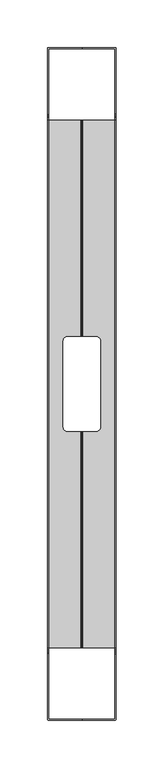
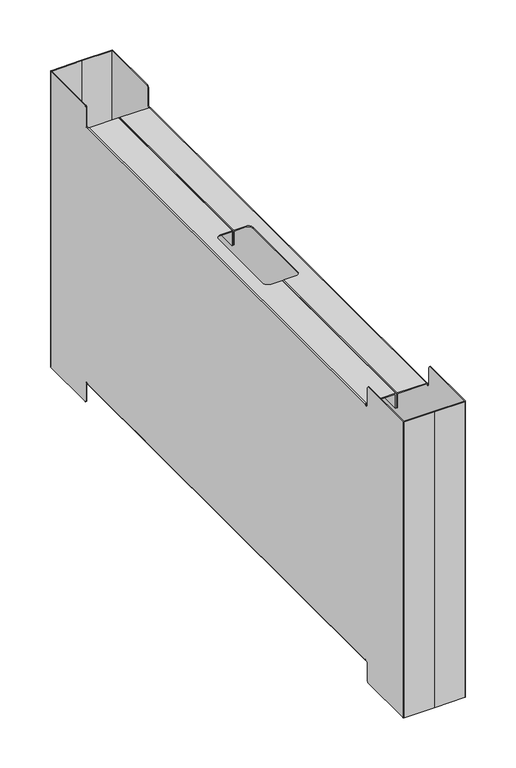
"""IFC4 building model written with IfcOpenShell, lengths in millimetres: furniture geometry, FREZZA_POP AD_Carter_for bench desk : Bracket_ZGBI - Embossed White."""

from ifc_helpers import new_model, si_unit, frame, origin, place, context, project, spatial, polyline, circle_curve, source, transform, mapped, element, save
from ifc_brep_helpers import plane_surface, cylinder_surface, revolved_surface, advanced_brep


def furniture_fbaf5bc5(model_context):
    return source(origin(), model_context, "Body", "AdvancedBrep", [
        advanced_brep(
        [(1451.0, -237.05, 335.5), (1451.0, -237.05, 335.0), (1452.0, -237.05, 335.0), (1452.0, -237.05, 335.55), (1485.95, -237.05, 335.55), (1485.95, -237.05, 318.55), (1486.95, -237.05, 318.55), (1486.95, -237.05, 335.5), (1485.9, -237.05, 336.55), (1452.05, -237.05, 336.55), (1452.0, -237.05, 24.45), (1452.0, -237.05, 25.0), (1451.0, -237.05, 25.0), (1451.0, -237.05, 24.5), (1452.05, -237.05, 23.45), (1485.9, -237.05, 23.45), (1486.95, -237.05, 24.5), (1486.95, -237.05, 41.45), (1485.95, -237.05, 41.45), (1485.95, -237.05, 24.45), (1452.0, 316.05, 335.55), (1452.0, 316.05, 335.0), (1451.0, 316.05, 335.0), (1451.0, 316.05, 335.5), (1452.05, 316.05, 336.55), (1485.9, 316.05, 336.55), (1486.95, 316.05, 335.5), (1486.95, 316.05, 318.55), (1485.95, 316.05, 318.55), (1485.95, 316.05, 335.55), (1451.0, 316.05, 24.5), (1451.0, 316.05, 25.0), (1452.0, 316.05, 25.0), (1452.0, 316.05, 24.45), (1485.95, 316.05, 24.45), (1485.95, 316.05, 41.45), (1486.95, 316.05, 41.45), (1486.95, 316.05, 24.5), (1485.9, 316.05, 23.45), (1452.05, 316.05, 23.45), (1485.9, -10.5, 336.55), (1472.0, -10.5, 336.55), (1467.0, -5.5, 336.55), (1467.0, 84.5, 336.55), (1472.0, 89.5, 336.55), (1485.9, 89.5, 336.55), (1486.95, 89.5, 335.5), (1486.95, -10.5, 335.5), (1486.95, 89.5, 318.55), (1486.95, -10.5, 318.55), (1485.95, 89.5, 318.55), (1485.95, -10.5, 318.55), (1485.95, 89.5, 335.55), (1485.95, -10.5, 335.55), (1472.0, 89.5, 335.55), (1467.0, 84.5, 335.55), (1467.0, -5.5, 335.55), (1472.0, -10.5, 335.55), (1452.0, -239.5, 335.0), (1452.0, -241.5, 337.0), (1452.0, -241.5, 358.0), (1452.0, -243.5, 360.0), (1452.0, -312.05, 360.0), (1452.0, -312.05, 0.0), (1452.0, -243.5, 0.0), (1452.0, -241.5, 2.0), (1452.0, -241.5, 23.0), (1452.0, -239.5, 25.0), (1452.0, 318.5, 25.0), (1452.0, 320.5, 23.0), (1452.0, 320.5, 2.0), (1452.0, 322.5, 0.0), (1452.0, 391.05, 0.0), (1452.0, 391.05, 360.0), (1452.0, 322.5, 360.0), (1452.0, 320.5, 358.0), (1452.0, 320.5, 337.0), (1452.0, 318.5, 335.0), (1451.0, 318.5, 335.0), (1451.0, 320.5, 337.0), (1451.0, 320.5, 358.0), (1451.0, 322.5, 360.0), (1451.0, 391.0, 360.0), (1451.0, 391.0, 0.0), (1451.0, 322.5, 0.0), (1451.0, 320.5, 2.0), (1451.0, 320.5, 23.0), (1451.0, 318.5, 25.0), (1451.0, -239.5, 25.0), (1451.0, -241.5, 23.0), (1451.0, -241.5, 2.0), (1451.0, -243.5, 0.0), (1451.0, -312.05, 0.0), (1451.0, -312.05, 360.0), (1451.0, -243.5, 360.0), (1451.0, -241.5, 358.0), (1451.0, -241.5, 337.0), (1451.0, -239.5, 335.0), (1485.95, -10.5, 24.45), (1472.0, -10.5, 24.45), (1467.0, -5.5, 24.45), (1467.0, 84.5, 24.45), (1472.0, 89.5, 24.45), (1485.95, 89.5, 24.45), (1485.95, 89.5, 41.45), (1485.95, -10.5, 41.45), (1486.95, 89.5, 41.45), (1486.95, -10.5, 41.45), (1486.95, 89.5, 24.5), (1486.95, -10.5, 24.5), (1485.9, 89.5, 23.45), (1485.9, -10.5, 23.45), (1472.0, 89.5, 23.45), (1467.0, 84.5, 23.45), (1467.0, -5.5, 23.45), (1472.0, -10.5, 23.45), (1487.0, 391.05, 360.0), (1487.0, 392.05, 360.0), (1452.05, 392.05, 360.0), (1487.0, -313.05, 360.0), (1487.0, -312.05, 360.0), (1452.05, -313.05, 360.0), (1452.05, 392.05, 0.0), (1487.0, 392.05, 0.0), (1487.0, 391.05, 0.0), (1487.0, -313.05, 0.0), (1452.0, -313.05, 0.0), (1487.0, -312.05, 0.0)],
        [
            (0, 1),
            (1, 2),
            (2, 3),
            (3, 4),
            (4, 5),
            (5, 6),
            (6, 7),
            (7, 8, circle_curve(frame((1485.9, -237.05, 335.5), z_axis=(0.0, -1.0, 0.0), x_axis=(1.0, 0.0, 0.0)), 1.05)),
            (8, 9),
            (9, 0, circle_curve(frame((1452.05, -237.05, 335.5), z_axis=(0.0, -1.0, 0.0), x_axis=(1.0, 0.0, 0.0)), 1.05)),
            (10, 11),
            (11, 12),
            (12, 13),
            (13, 14, circle_curve(frame((1452.05, -237.05, 24.5), z_axis=(0.0, -1.0, 0.0), x_axis=(1.0, 0.0, 0.0)), 1.05)),
            (14, 15),
            (15, 16, circle_curve(frame((1485.9, -237.05, 24.5), z_axis=(0.0, -1.0, 0.0), x_axis=(1.0, 0.0, 0.0)), 1.05)),
            (16, 17),
            (17, 18),
            (18, 19),
            (19, 10),
            (20, 21),
            (21, 22),
            (22, 23),
            (23, 24, circle_curve(frame((1452.05, 316.05, 335.5), z_axis=(0.0, 1.0, 0.0), x_axis=(1.0, 0.0, 0.0)), 1.05)),
            (24, 25),
            (25, 26, circle_curve(frame((1485.9, 316.05, 335.5), z_axis=(0.0, 1.0, 0.0), x_axis=(1.0, 0.0, 0.0)), 1.05)),
            (26, 27),
            (27, 28),
            (28, 29),
            (29, 20),
            (30, 31),
            (31, 32),
            (32, 33),
            (33, 34),
            (34, 35),
            (35, 36),
            (36, 37),
            (37, 38, circle_curve(frame((1485.9, 316.05, 24.5), z_axis=(0.0, 1.0, 0.0), x_axis=(1.0, 0.0, 0.0)), 1.05)),
            (38, 39),
            (39, 30, circle_curve(frame((1452.05, 316.05, 24.5), z_axis=(0.0, 1.0, 0.0), x_axis=(1.0, 0.0, 0.0)), 1.05)),
            (9, 24),
            (23, 0),
            (8, 40),
            (40, 41),
            (41, 42, circle_curve(frame((1472.0, -5.5, 336.55), z_axis=(0.0, 0.0, -1.0), x_axis=(1.0, 0.0, 0.0)), 5.0)),
            (42, 43),
            (43, 44, circle_curve(frame((1472.0, 84.5, 336.55), z_axis=(0.0, 0.0, -1.0), x_axis=(1.0, 0.0, 0.0)), 5.0)),
            (44, 45),
            (45, 25),
            (45, 46, circle_curve(frame((1485.9, 89.5, 335.5), z_axis=(0.0, 1.0, 0.0), x_axis=(1.0, 0.0, 0.0)), 1.05)),
            (46, 26),
            (7, 47),
            (47, 40, circle_curve(frame((1485.9, -10.5, 335.5), z_axis=(0.0, -1.0, 0.0), x_axis=(1.0, 0.0, 0.0)), 1.05)),
            (46, 48),
            (48, 27),
            (6, 49),
            (49, 47),
            (48, 50),
            (50, 28),
            (5, 51),
            (51, 49),
            (50, 52),
            (52, 29),
            (4, 53),
            (53, 51),
            (3, 20),
            (52, 54),
            (54, 55, circle_curve(frame((1472.0, 84.5, 335.55), z_axis=(0.0, 0.0, 1.0), x_axis=(1.0, 0.0, 0.0)), 5.0)),
            (55, 56),
            (56, 57, circle_curve(frame((1472.0, -5.5, 335.55), z_axis=(0.0, 0.0, 1.0), x_axis=(1.0, 0.0, 0.0)), 5.0)),
            (57, 53),
            (2, 58),
            (58, 59, circle_curve(frame((1452.0, -239.5, 337.0), z_axis=(-1.0, 0.0, 0.0), x_axis=(0.0, 1.0, 0.0)), 2.0)),
            (59, 60),
            (60, 61, circle_curve(frame((1452.0, -243.5, 358.0), z_axis=(1.0, 0.0, 0.0), x_axis=(0.0, 1.0, 0.0)), 2.0)),
            (61, 62),
            (62, 63),
            (63, 64),
            (64, 65, circle_curve(frame((1452.0, -243.5, 2.0), z_axis=(1.0, 0.0, 0.0), x_axis=(0.0, 1.0, 0.0)), 2.0)),
            (65, 66),
            (66, 67, circle_curve(frame((1452.0, -239.5, 23.0), z_axis=(-1.0, 0.0, 0.0), x_axis=(0.0, 1.0, 0.0)), 2.0)),
            (67, 11),
            (10, 33),
            (32, 68),
            (68, 69, circle_curve(frame((1452.0, 318.5, 23.0), z_axis=(-1.0, 0.0, 0.0), x_axis=(0.0, 1.0, 0.0)), 2.0)),
            (69, 70),
            (70, 71, circle_curve(frame((1452.0, 322.5, 2.0), z_axis=(1.0, 0.0, 0.0), x_axis=(0.0, 1.0, 0.0)), 2.0)),
            (71, 72),
            (72, 73),
            (73, 74),
            (74, 75, circle_curve(frame((1452.0, 322.5, 358.0), z_axis=(1.0, 0.0, 0.0), x_axis=(0.0, 1.0, 0.0)), 2.0)),
            (75, 76),
            (76, 77, circle_curve(frame((1452.0, 318.5, 337.0), z_axis=(-1.0, 0.0, 0.0), x_axis=(0.0, 1.0, 0.0)), 2.0)),
            (77, 21),
            (22, 78),
            (78, 79, circle_curve(frame((1451.0, 318.5, 337.0), z_axis=(1.0, 0.0, 0.0), x_axis=(0.0, 1.0, 0.0)), 2.0)),
            (79, 80),
            (80, 81, circle_curve(frame((1451.0, 322.5, 358.0), z_axis=(-1.0, 0.0, 0.0), x_axis=(0.0, 1.0, 0.0)), 2.0)),
            (81, 82),
            (82, 83),
            (83, 84),
            (84, 85, circle_curve(frame((1451.0, 322.5, 2.0), z_axis=(-1.0, 0.0, 0.0), x_axis=(0.0, 1.0, 0.0)), 2.0)),
            (85, 86),
            (86, 87, circle_curve(frame((1451.0, 318.5, 23.0), z_axis=(1.0, 0.0, 0.0), x_axis=(0.0, 1.0, 0.0)), 2.0)),
            (87, 31),
            (30, 13),
            (12, 88),
            (88, 89, circle_curve(frame((1451.0, -239.5, 23.0), z_axis=(1.0, 0.0, 0.0), x_axis=(0.0, 1.0, 0.0)), 2.0)),
            (89, 90),
            (90, 91, circle_curve(frame((1451.0, -243.5, 2.0), z_axis=(-1.0, 0.0, 0.0), x_axis=(0.0, 1.0, 0.0)), 2.0)),
            (91, 92),
            (92, 93),
            (93, 94),
            (94, 95, circle_curve(frame((1451.0, -243.5, 358.0), z_axis=(-1.0, 0.0, 0.0), x_axis=(0.0, 1.0, 0.0)), 2.0)),
            (95, 96),
            (96, 97, circle_curve(frame((1451.0, -239.5, 337.0), z_axis=(1.0, 0.0, 0.0), x_axis=(0.0, 1.0, 0.0)), 2.0)),
            (97, 1),
            (19, 98),
            (98, 99),
            (99, 100, circle_curve(frame((1472.0, -5.5, 24.45), z_axis=(0.0, 0.0, -1.0), x_axis=(1.0, 0.0, 0.0)), 5.0)),
            (100, 101),
            (101, 102, circle_curve(frame((1472.0, 84.5, 24.45), z_axis=(0.0, 0.0, -1.0), x_axis=(1.0, 0.0, 0.0)), 5.0)),
            (102, 103),
            (103, 34),
            (103, 104),
            (104, 35),
            (18, 105),
            (105, 98),
            (104, 106),
            (106, 36),
            (17, 107),
            (107, 105),
            (106, 108),
            (108, 37),
            (16, 109),
            (109, 107),
            (108, 110, circle_curve(frame((1485.9, 89.5, 24.5), z_axis=(0.0, 1.0, 0.0), x_axis=(1.0, 0.0, 0.0)), 1.05)),
            (110, 38),
            (15, 111),
            (111, 109, circle_curve(frame((1485.9, -10.5, 24.5), z_axis=(0.0, -1.0, 0.0), x_axis=(1.0, 0.0, 0.0)), 1.05)),
            (14, 39),
            (110, 112),
            (112, 113, circle_curve(frame((1472.0, 84.5, 23.45), z_axis=(0.0, 0.0, 1.0), x_axis=(1.0, 0.0, 0.0)), 5.0)),
            (113, 114),
            (114, 115, circle_curve(frame((1472.0, -5.5, 23.45), z_axis=(0.0, 0.0, 1.0), x_axis=(1.0, 0.0, 0.0)), 5.0)),
            (115, 111),
            (54, 44),
            (43, 55),
            (112, 102),
            (101, 113),
            (57, 41),
            (115, 99),
            (56, 42),
            (114, 100),
            (81, 74),
            (73, 116),
            (116, 117),
            (117, 118),
            (118, 82, circle_curve(frame((1452.05, 391.0, 360.0), z_axis=(0.0, 0.0, 1.0), x_axis=(1.0, 0.0, 0.0)), 1.05)),
            (119, 120),
            (120, 62),
            (61, 94),
            (93, 121, circle_curve(frame((1452.05, -312.0, 360.0), z_axis=(0.0, 0.0, 1.0), x_axis=(1.0, 0.0, 0.0)), 1.05)),
            (121, 119),
            (71, 84),
            (83, 122, circle_curve(frame((1452.05, 391.0, 0.0), z_axis=(0.0, 0.0, -1.0), x_axis=(1.0, 0.0, 0.0)), 1.05)),
            (122, 123),
            (123, 124),
            (124, 72),
            (125, 126),
            (126, 92, circle_curve(frame((1452.05, -312.0, 0.0), z_axis=(0.0, 0.0, -1.0), x_axis=(1.0, 0.0, 0.0)), 1.05)),
            (91, 64),
            (63, 127),
            (127, 125),
            (121, 126),
            (125, 119),
            (118, 122),
            (117, 123),
            (116, 124),
            (120, 127),
            (60, 95),
            (59, 96),
            (58, 97),
            (77, 78),
            (76, 79),
            (75, 80),
            (70, 85),
            (69, 86),
            (68, 87),
            (67, 88),
            (66, 89),
            (65, 90),
        ],
        [
            plane_surface(frame((1487.0, -237.05, 0.0), z_axis=(0.0, -1.0, 0.0), x_axis=(0.0, 0.0, 1.0))),
            plane_surface(frame((1487.0, 316.05, 0.0), z_axis=(0.0, 1.0, 0.0), x_axis=(0.0, 0.0, 1.0))),
            cylinder_surface(frame((1452.05, -237.05, 335.5), z_axis=(0.0, -1.0, 0.0), x_axis=(1.0, 0.0, 0.0)), 1.05),
            plane_surface(frame((1452.05, -237.05, 336.55), z_axis=(0.0, 0.0, 1.0), x_axis=(0.0, 1.0, 0.0))),
            cylinder_surface(frame((1485.9, -237.05, 335.5), z_axis=(0.0, -1.0, 0.0), x_axis=(1.0, 0.0, 0.0)), 1.05),
            plane_surface(frame((1486.95, -237.05, 335.5), z_axis=(1.0, 0.0, 0.0), x_axis=(0.0, 1.0, 0.0))),
            plane_surface(frame((1486.95, -237.05, 318.55), z_axis=(0.0, 0.0, -1.0), x_axis=(0.0, 1.0, 0.0))),
            plane_surface(frame((1485.95, -237.05, 318.55), z_axis=(-1.0, 0.0, 0.0), x_axis=(0.0, 1.0, 0.0))),
            plane_surface(frame((1485.95, -237.05, 335.55), z_axis=(0.0, 0.0, -1.0), x_axis=(0.0, 1.0, 0.0))),
            plane_surface(frame((1452.0, -237.05, 335.55), z_axis=(1.0, 0.0, 0.0), x_axis=(0.0, 1.0, 0.0))),
            plane_surface(frame((1451.0, -237.05, 334.55), z_axis=(-1.0, 0.0, 0.0), x_axis=(0.0, 1.0, 0.0))),
            plane_surface(frame((1452.0, -237.05, 24.45), z_axis=(0.0, 0.0, 1.0), x_axis=(0.0, 1.0, 0.0))),
            plane_surface(frame((1485.95, -237.05, 24.45), z_axis=(-1.0, 0.0, 0.0), x_axis=(0.0, 1.0, 0.0))),
            plane_surface(frame((1485.95, -237.05, 41.45), z_axis=(0.0, 0.0, 1.0), x_axis=(0.0, 1.0, 0.0))),
            plane_surface(frame((1486.95, -237.05, 41.45), z_axis=(1.0, 0.0, 0.0), x_axis=(0.0, 1.0, 0.0))),
            cylinder_surface(frame((1485.9, -237.05, 24.5), z_axis=(0.0, -1.0, 0.0), x_axis=(1.0, 0.0, 0.0)), 1.05),
            plane_surface(frame((1485.9, -237.05, 23.45), z_axis=(0.0, 0.0, -1.0), x_axis=(0.0, 1.0, 0.0))),
            cylinder_surface(frame((1452.05, -237.05, 24.5), z_axis=(0.0, -1.0, 0.0), x_axis=(1.0, 0.0, 0.0)), 1.05),
            revolved_surface(polyline([(1477.0, 84.5, 336.55), (1477.0, 84.5, 335.55)]), (1472.0, 84.5, 0.0), (0.0, 0.0, 1.0)),
            revolved_surface(polyline([(1477.0, 84.5, 24.45), (1477.0, 84.5, 23.45)]), (1472.0, 84.5, 0.0), (0.0, 0.0, 1.0)),
            plane_surface(frame((1472.0, 89.5, 360.0), z_axis=(0.0, -1.0, 0.0), x_axis=(0.0, 0.0, -1.0))),
            plane_surface(frame((1502.0, -10.5, 360.0), z_axis=(0.0, 1.0, 0.0), x_axis=(0.0, 0.0, -1.0))),
            revolved_surface(polyline([(1477.0, -5.5, 336.55), (1477.0, -5.5, 335.55)]), (1472.0, -5.5, 0.0), (0.0, 0.0, 1.0)),
            revolved_surface(polyline([(1477.0, -5.5, 24.45), (1477.0, -5.5, 23.45)]), (1472.0, -5.5, 0.0), (0.0, 0.0, 1.0)),
            plane_surface(frame((1467.0, -5.5, 360.0), z_axis=(1.0, 0.0, 0.0), x_axis=(0.0, 0.0, -1.0))),
            plane_surface(frame((1452.0, -313.05, 360.0), z_axis=(0.0, 0.0, 1.0), x_axis=(-1.0, 0.0, 0.0))),
            plane_surface(frame((1452.0, -313.05, 0.0), z_axis=(0.0, 0.0, -1.0), x_axis=(1.0, 0.0, 0.0))),
            plane_surface(frame((1487.0, -313.05, 360.0), z_axis=(0.0, -1.0, 0.0), x_axis=(0.0, 0.0, -1.0))),
            cylinder_surface(frame((1452.05, -312.0, 0.0), z_axis=(0.0, 0.0, 1.0), x_axis=(1.0, 0.0, 0.0)), 1.05),
            cylinder_surface(frame((1452.05, 391.0, 0.0), z_axis=(0.0, 0.0, 1.0), x_axis=(1.0, 0.0, 0.0)), 1.05),
            plane_surface(frame((1452.05, 392.05, 360.0), z_axis=(0.0, 1.0, 0.0), x_axis=(0.0, 0.0, -1.0))),
            plane_surface(frame((1487.0, 392.05, 360.0), z_axis=(1.0, 0.0, 0.0), x_axis=(0.0, 0.0, -1.0))),
            plane_surface(frame((1487.0, 391.05, 360.0), z_axis=(0.0, -1.0, 0.0), x_axis=(0.0, 0.0, -1.0))),
            plane_surface(frame((1452.0, -312.05, 360.0), z_axis=(0.0, 1.0, 0.0), x_axis=(0.0, 0.0, -1.0))),
            plane_surface(frame((1487.0, -312.05, 360.0), z_axis=(1.0, 0.0, 0.0), x_axis=(0.0, 0.0, -1.0))),
            cylinder_surface(frame((1527.0, -243.5, 358.0), z_axis=(1.0, 0.0, 0.0), x_axis=(0.0, 1.0, 0.0)), 2.0),
            plane_surface(frame((1447.0, -241.5, 358.0), z_axis=(0.0, 1.0, 0.0), x_axis=(1.0, 0.0, 0.0))),
            revolved_surface(polyline([(1451.0, -237.5, 337.0), (1452.0, -237.5, 337.0)]), (1527.0, -239.5, 337.0), (-1.0, 0.0, 0.0)),
            plane_surface(frame((1447.0, -239.5, 335.0), z_axis=(0.0, 0.0, 1.0), x_axis=(1.0, 0.0, 0.0))),
            revolved_surface(polyline([(1451.0, 320.5, 337.0), (1452.0, 320.5, 337.0)]), (1527.0, 318.5, 337.0), (-1.0, 0.0, 0.0)),
            plane_surface(frame((1447.0, 320.5, 337.0), z_axis=(0.0, -1.0, 0.0), x_axis=(1.0, 0.0, 0.0))),
            cylinder_surface(frame((1527.0, 322.5, 358.0), z_axis=(1.0, 0.0, 0.0), x_axis=(0.0, 1.0, 0.0)), 2.0),
            cylinder_surface(frame((1447.0, 322.5, 2.0), z_axis=(1.0, 0.0, 0.0), x_axis=(0.0, 1.0, 0.0)), 2.0),
            plane_surface(frame((1447.0, 320.5, 2.0), z_axis=(0.0, -1.0, 0.0), x_axis=(1.0, 0.0, 0.0))),
            revolved_surface(polyline([(1451.0, 320.5, 23.0), (1452.0, 320.5, 23.0)]), (1447.0, 318.5, 23.0), (-1.0, 0.0, 0.0)),
            plane_surface(frame((1447.0, 318.5, 25.0), z_axis=(0.0, 0.0, -1.0), x_axis=(1.0, 0.0, 0.0))),
            revolved_surface(polyline([(1451.0, -237.5, 23.0), (1452.0, -237.5, 23.0)]), (1447.0, -239.5, 23.0), (-1.0, 0.0, 0.0)),
            plane_surface(frame((1447.0, -241.5, 23.0), z_axis=(0.0, 1.0, 0.0), x_axis=(1.0, 0.0, 0.0))),
            cylinder_surface(frame((1447.0, -243.5, 2.0), z_axis=(1.0, 0.0, 0.0), x_axis=(0.0, 1.0, 0.0)), 2.0),
        ],
        [
            (0, [[1, 2, 3, 4, 5, 6, 7, 8, 9, 10]]),
            (0, [[11, 12, 13, 14, 15, 16, 17, 18, 19, 20]]),
            (1, [[21, 22, 23, 24, 25, 26, 27, 28, 29, 30]]),
            (1, [[31, 32, 33, 34, 35, 36, 37, 38, 39, 40]]),
            (2, [[41, -24, 42, -10]]),
            (3, [[43, 44, 45, 46, 47, 48, 49, -25, -41, -9]]),
            (4, [[-49, 50, 51, -26]]),
            (4, [[52, 53, -43, -8]]),
            (5, [[-51, 54, 55, -27]]),
            (5, [[56, 57, -52, -7]]),
            (6, [[-55, 58, 59, -28]]),
            (6, [[60, 61, -56, -6]]),
            (7, [[-59, 62, 63, -29]]),
            (7, [[64, 65, -60, -5]]),
            (8, [[66, -30, -63, 67, 68, 69, 70, 71, -64, -4]]),
            (9, [[-3, 72, 73, 74, 75, 76, 77, 78, 79, 80, 81, 82, -11, 83, -33, 84, 85, 86, 87, 88, 89, 90, 91, 92, 93, 94, -21, -66]]),
            (10, [[-23, 95, 96, 97, 98, 99, 100, 101, 102, 103, 104, 105, -31, 106, -13, 107, 108, 109, 110, 111, 112, 113, 114, 115, 116, 117, -1, -42]]),
            (11, [[118, 119, 120, 121, 122, 123, 124, -34, -83, -20]]),
            (12, [[-124, 125, 126, -35]]),
            (12, [[127, 128, -118, -19]]),
            (13, [[-126, 129, 130, -36]]),
            (13, [[131, 132, -127, -18]]),
            (14, [[-130, 133, 134, -37]]),
            (14, [[135, 136, -131, -17]]),
            (15, [[-134, 137, 138, -38]]),
            (15, [[139, 140, -135, -16]]),
            (16, [[141, -39, -138, 142, 143, 144, 145, 146, -139, -15]]),
            (17, [[-106, -40, -141, -14]]),
            (18, [[-68, 147, -47, 148]]),
            (19, [[-143, 149, -122, 150]]),
            (20, [[-67, -62, -58, -54, -50, -48, -147]]),
            (20, [[-142, -137, -133, -129, -125, -123, -149]]),
            (21, [[-44, -53, -57, -61, -65, -71, 151]]),
            (21, [[-119, -128, -132, -136, -140, -146, 152]]),
            (22, [[-70, 153, -45, -151]]),
            (23, [[-145, 154, -120, -152]]),
            (24, [[-46, -153, -69, -148]]),
            (24, [[-121, -154, -144, -150]]),
            (25, [[-99, 155, -90, 156, 157, 158, 159]]),
            (25, [[160, 161, -76, 162, -113, 163, 164]]),
            (26, [[-88, 165, -101, 166, 167, 168, 169]]),
            (26, [[170, 171, -111, 172, -78, 173, 174]]),
            (27, [[175, -170, 176, -164]]),
            (28, [[-112, -171, -175, -163]]),
            (29, [[177, -166, -100, -159]]),
            (30, [[178, -167, -177, -158]]),
            (31, [[179, -168, -178, -157]]),
            (32, [[-89, -169, -179, -156]]),
            (33, [[180, -173, -77, -161]]),
            (34, [[-176, -174, -180, -160]]),
            (35, [[-114, -162, -75, 181]]),
            (36, [[-74, 182, -115, -181]]),
            (37, [[-73, 183, -116, -182]]),
            (38, [[-72, -2, -117, -183]]),
            (38, [[-95, -22, -94, 184]]),
            (39, [[-93, 185, -96, -184]]),
            (40, [[-92, 186, -97, -185]]),
            (41, [[-91, -155, -98, -186]]),
            (42, [[-102, -165, -87, 187]]),
            (43, [[-86, 188, -103, -187]]),
            (44, [[-85, 189, -104, -188]]),
            (45, [[-84, -32, -105, -189]]),
            (45, [[-107, -12, -82, 190]]),
            (46, [[-81, 191, -108, -190]]),
            (47, [[-80, 192, -109, -191]]),
            (48, [[-79, -172, -110, -192]]),
        ],
    ),
        advanced_brep(
        [(1502.0, 89.5, 336.55), (1488.1, 89.5, 336.55), (1487.05, 89.5, 335.5), (1487.05, 89.5, 318.55), (1488.05, 89.5, 318.55), (1488.05, 89.5, 335.55), (1502.0, 89.5, 335.55), (1502.0, 89.5, 24.45), (1488.05, 89.5, 24.45), (1488.05, 89.5, 41.45), (1487.05, 89.5, 41.45), (1487.05, 89.5, 24.5), (1488.1, 89.5, 23.45), (1502.0, 89.5, 23.45), (1507.0, 84.5, 335.55), (1507.0, 84.5, 336.55), (1507.0, 84.5, 23.45), (1507.0, 84.5, 24.45), (1507.0, -5.5, 335.55), (1507.0, -5.5, 336.55), (1507.0, -5.5, 23.45), (1507.0, -5.5, 24.45), (1502.0, -10.5, 335.55), (1502.0, -10.5, 336.55), (1502.0, -10.5, 23.45), (1502.0, -10.5, 24.45), (1488.05, -10.5, 335.55), (1488.05, -10.5, 318.55), (1487.05, -10.5, 318.55), (1487.05, -10.5, 335.5), (1488.1, -10.5, 336.55), (1488.1, -10.5, 23.45), (1487.05, -10.5, 24.5), (1487.05, -10.5, 41.45), (1488.05, -10.5, 41.45), (1488.05, -10.5, 24.45), (1522.0, -237.05, 335.55), (1522.0, -237.05, 335.0), (1523.0, -237.05, 335.0), (1523.0, -237.05, 335.5), (1521.95, -237.05, 336.55), (1488.1, -237.05, 336.55), (1487.05, -237.05, 335.5), (1487.05, -237.05, 318.55), (1488.05, -237.05, 318.55), (1488.05, -237.05, 335.55), (1523.0, -237.05, 24.5), (1523.0, -237.05, 25.0), (1522.0, -237.05, 25.0), (1522.0, -237.05, 24.45), (1488.05, -237.05, 24.45), (1488.05, -237.05, 41.45), (1487.05, -237.05, 41.45), (1487.05, -237.05, 24.5), (1488.1, -237.05, 23.45), (1521.95, -237.05, 23.45), (1523.0, 316.05, 335.5), (1523.0, 316.05, 335.0), (1522.0, 316.05, 335.0), (1522.0, 316.05, 335.55), (1488.05, 316.05, 335.55), (1488.05, 316.05, 318.55), (1487.05, 316.05, 318.55), (1487.05, 316.05, 335.5), (1488.1, 316.05, 336.55), (1521.95, 316.05, 336.55), (1522.0, 316.05, 24.45), (1522.0, 316.05, 25.0), (1523.0, 316.05, 25.0), (1523.0, 316.05, 24.5), (1521.95, 316.05, 23.45), (1488.1, 316.05, 23.45), (1487.05, 316.05, 24.5), (1487.05, 316.05, 41.45), (1488.05, 316.05, 41.45), (1488.05, 316.05, 24.45), (1522.0, 318.5, 335.0), (1522.0, 320.5, 337.0), (1522.0, 320.5, 358.0), (1522.0, 322.5, 360.0), (1522.0, 391.05, 360.0), (1522.0, 391.05, 0.0), (1522.0, 322.5, 0.0), (1522.0, 320.5, 2.0), (1522.0, 320.5, 23.0), (1522.0, 318.5, 25.0), (1522.0, -239.5, 25.0), (1522.0, -241.5, 23.0), (1522.0, -241.5, 2.0), (1522.0, -243.5, 0.0), (1522.0, -312.05, 0.0), (1522.0, -312.05, 360.0), (1522.0, -243.5, 360.0), (1522.0, -241.5, 358.0), (1522.0, -241.5, 337.0), (1522.0, -239.5, 335.0), (1523.0, -239.5, 335.0), (1523.0, -241.5, 337.0), (1523.0, -241.5, 358.0), (1523.0, -243.5, 360.0), (1523.0, -312.05, 360.0), (1523.0, -312.0, 0.0), (1523.0, -243.5, 0.0), (1523.0, -241.5, 2.0), (1523.0, -241.5, 23.0), (1523.0, -239.5, 25.0), (1523.0, 318.5, 25.0), (1523.0, 320.5, 23.0), (1523.0, 320.5, 2.0), (1523.0, 322.5, 0.0), (1523.0, 391.0, 0.0), (1523.0, 391.0, 360.0), (1523.0, 322.5, 360.0), (1523.0, 320.5, 358.0), (1523.0, 320.5, 337.0), (1523.0, 318.5, 335.0), (1521.95, 392.05, 360.0), (1487.0, 392.05, 360.0), (1487.0, 391.05, 360.0), (1487.0, -313.05, 360.0), (1522.0, -313.05, 360.0), (1487.0, -312.05, 360.0), (1487.0, 391.05, 0.0), (1487.0, 392.05, 0.0), (1521.95, 392.05, 0.0), (1487.0, -313.05, 0.0), (1487.0, -312.05, 0.0), (1521.95, -313.05, 0.0)],
        [
            (0, 1),
            (1, 2, circle_curve(frame((1488.1, 89.5, 335.5), z_axis=(0.0, -1.0, 0.0), x_axis=(1.0, 0.0, 0.0)), 1.05)),
            (2, 3),
            (3, 4),
            (4, 5),
            (5, 6),
            (6, 0),
            (7, 8),
            (8, 9),
            (9, 10),
            (10, 11),
            (11, 12, circle_curve(frame((1488.1, 89.5, 24.5), z_axis=(0.0, -1.0, 0.0), x_axis=(1.0, 0.0, 0.0)), 1.05)),
            (12, 13),
            (13, 7),
            (6, 14, circle_curve(frame((1502.0, 84.5, 335.55), z_axis=(0.0, 0.0, -1.0), x_axis=(1.0, 0.0, 0.0)), 5.0)),
            (14, 15),
            (15, 0, circle_curve(frame((1502.0, 84.5, 336.55), z_axis=(0.0, 0.0, 1.0), x_axis=(1.0, 0.0, 0.0)), 5.0)),
            (13, 16, circle_curve(frame((1502.0, 84.5, 23.45), z_axis=(0.0, 0.0, -1.0), x_axis=(1.0, 0.0, 0.0)), 5.0)),
            (16, 17),
            (17, 7, circle_curve(frame((1502.0, 84.5, 24.45), z_axis=(0.0, 0.0, 1.0), x_axis=(1.0, 0.0, 0.0)), 5.0)),
            (14, 18),
            (18, 19),
            (19, 15),
            (16, 20),
            (20, 21),
            (21, 17),
            (18, 22, circle_curve(frame((1502.0, -5.5, 335.55), z_axis=(0.0, 0.0, -1.0), x_axis=(1.0, 0.0, 0.0)), 5.0)),
            (22, 23),
            (23, 19, circle_curve(frame((1502.0, -5.5, 336.55), z_axis=(0.0, 0.0, 1.0), x_axis=(1.0, 0.0, 0.0)), 5.0)),
            (20, 24, circle_curve(frame((1502.0, -5.5, 23.45), z_axis=(0.0, 0.0, -1.0), x_axis=(1.0, 0.0, 0.0)), 5.0)),
            (24, 25),
            (25, 21, circle_curve(frame((1502.0, -5.5, 24.45), z_axis=(0.0, 0.0, 1.0), x_axis=(1.0, 0.0, 0.0)), 5.0)),
            (22, 26),
            (26, 27),
            (27, 28),
            (28, 29),
            (29, 30, circle_curve(frame((1488.1, -10.5, 335.5), z_axis=(0.0, 1.0, 0.0), x_axis=(1.0, 0.0, 0.0)), 1.05)),
            (30, 23),
            (24, 31),
            (31, 32, circle_curve(frame((1488.1, -10.5, 24.5), z_axis=(0.0, 1.0, 0.0), x_axis=(1.0, 0.0, 0.0)), 1.05)),
            (32, 33),
            (33, 34),
            (34, 35),
            (35, 25),
            (36, 37),
            (37, 38),
            (38, 39),
            (39, 40, circle_curve(frame((1521.95, -237.05, 335.5), z_axis=(0.0, -1.0, 0.0), x_axis=(1.0, 0.0, 0.0)), 1.05)),
            (40, 41),
            (41, 42, circle_curve(frame((1488.1, -237.05, 335.5), z_axis=(0.0, -1.0, 0.0), x_axis=(1.0, 0.0, 0.0)), 1.05)),
            (42, 43),
            (43, 44),
            (44, 45),
            (45, 36),
            (46, 47),
            (47, 48),
            (48, 49),
            (49, 50),
            (50, 51),
            (51, 52),
            (52, 53),
            (53, 54, circle_curve(frame((1488.1, -237.05, 24.5), z_axis=(0.0, -1.0, 0.0), x_axis=(1.0, 0.0, 0.0)), 1.05)),
            (54, 55),
            (55, 46, circle_curve(frame((1521.95, -237.05, 24.5), z_axis=(0.0, -1.0, 0.0), x_axis=(1.0, 0.0, 0.0)), 1.05)),
            (56, 57),
            (57, 58),
            (58, 59),
            (59, 60),
            (60, 61),
            (61, 62),
            (62, 63),
            (63, 64, circle_curve(frame((1488.1, 316.05, 335.5), z_axis=(0.0, 1.0, 0.0), x_axis=(1.0, 0.0, 0.0)), 1.05)),
            (64, 65),
            (65, 56, circle_curve(frame((1521.95, 316.05, 335.5), z_axis=(0.0, 1.0, 0.0), x_axis=(1.0, 0.0, 0.0)), 1.05)),
            (66, 67),
            (67, 68),
            (68, 69),
            (69, 70, circle_curve(frame((1521.95, 316.05, 24.5), z_axis=(0.0, 1.0, 0.0), x_axis=(1.0, 0.0, 0.0)), 1.05)),
            (70, 71),
            (71, 72, circle_curve(frame((1488.1, 316.05, 24.5), z_axis=(0.0, 1.0, 0.0), x_axis=(1.0, 0.0, 0.0)), 1.05)),
            (72, 73),
            (73, 74),
            (74, 75),
            (75, 66),
            (39, 56),
            (65, 40),
            (64, 1),
            (30, 41),
            (29, 42),
            (63, 2),
            (28, 43),
            (62, 3),
            (27, 44),
            (61, 4),
            (26, 45),
            (60, 5),
            (59, 36),
            (58, 76),
            (76, 77, circle_curve(frame((1522.0, 318.5, 337.0), z_axis=(1.0, 0.0, 0.0), x_axis=(0.0, 1.0, 0.0)), 2.0)),
            (77, 78),
            (78, 79, circle_curve(frame((1522.0, 322.5, 358.0), z_axis=(-1.0, 0.0, 0.0), x_axis=(0.0, 1.0, 0.0)), 2.0)),
            (79, 80),
            (80, 81),
            (81, 82),
            (82, 83, circle_curve(frame((1522.0, 322.5, 2.0), z_axis=(-1.0, 0.0, 0.0), x_axis=(0.0, 1.0, 0.0)), 2.0)),
            (83, 84),
            (84, 85, circle_curve(frame((1522.0, 318.5, 23.0), z_axis=(1.0, 0.0, 0.0), x_axis=(0.0, 1.0, 0.0)), 2.0)),
            (85, 67),
            (66, 49),
            (48, 86),
            (86, 87, circle_curve(frame((1522.0, -239.5, 23.0), z_axis=(1.0, 0.0, 0.0), x_axis=(0.0, 1.0, 0.0)), 2.0)),
            (87, 88),
            (88, 89, circle_curve(frame((1522.0, -243.5, 2.0), z_axis=(-1.0, 0.0, 0.0), x_axis=(0.0, 1.0, 0.0)), 2.0)),
            (89, 90),
            (90, 91),
            (91, 92),
            (92, 93, circle_curve(frame((1522.0, -243.5, 358.0), z_axis=(-1.0, 0.0, 0.0), x_axis=(0.0, 1.0, 0.0)), 2.0)),
            (93, 94),
            (94, 95, circle_curve(frame((1522.0, -239.5, 337.0), z_axis=(1.0, 0.0, 0.0), x_axis=(0.0, 1.0, 0.0)), 2.0)),
            (95, 37),
            (38, 96),
            (96, 97, circle_curve(frame((1523.0, -239.5, 337.0), z_axis=(-1.0, 0.0, 0.0), x_axis=(0.0, 1.0, 0.0)), 2.0)),
            (97, 98),
            (98, 99, circle_curve(frame((1523.0, -243.5, 358.0), z_axis=(1.0, 0.0, 0.0), x_axis=(0.0, 1.0, 0.0)), 2.0)),
            (99, 100),
            (100, 101),
            (101, 102),
            (102, 103, circle_curve(frame((1523.0, -243.5, 2.0), z_axis=(1.0, 0.0, 0.0), x_axis=(0.0, 1.0, 0.0)), 2.0)),
            (103, 104),
            (104, 105, circle_curve(frame((1523.0, -239.5, 23.0), z_axis=(-1.0, 0.0, 0.0), x_axis=(0.0, 1.0, 0.0)), 2.0)),
            (105, 47),
            (46, 69),
            (68, 106),
            (106, 107, circle_curve(frame((1523.0, 318.5, 23.0), z_axis=(-1.0, 0.0, 0.0), x_axis=(0.0, 1.0, 0.0)), 2.0)),
            (107, 108),
            (108, 109, circle_curve(frame((1523.0, 322.5, 2.0), z_axis=(1.0, 0.0, 0.0), x_axis=(0.0, 1.0, 0.0)), 2.0)),
            (109, 110),
            (110, 111),
            (111, 112),
            (112, 113, circle_curve(frame((1523.0, 322.5, 358.0), z_axis=(1.0, 0.0, 0.0), x_axis=(0.0, 1.0, 0.0)), 2.0)),
            (113, 114),
            (114, 115, circle_curve(frame((1523.0, 318.5, 337.0), z_axis=(-1.0, 0.0, 0.0), x_axis=(0.0, 1.0, 0.0)), 2.0)),
            (115, 57),
            (75, 8),
            (35, 50),
            (34, 51),
            (74, 9),
            (33, 52),
            (73, 10),
            (32, 53),
            (72, 11),
            (31, 54),
            (71, 12),
            (70, 55),
            (92, 99),
            (98, 93),
            (97, 94),
            (96, 95),
            (115, 76),
            (114, 77),
            (113, 78),
            (112, 79),
            (82, 109),
            (108, 83),
            (107, 84),
            (106, 85),
            (105, 86),
            (104, 87),
            (103, 88),
            (102, 89),
            (111, 116, circle_curve(frame((1521.95, 391.0, 360.0), z_axis=(0.0, 0.0, 1.0), x_axis=(-1.0, 0.0, 0.0)), 1.05)),
            (116, 117),
            (117, 118),
            (118, 80),
            (119, 120),
            (120, 100, circle_curve(frame((1521.95, -312.0, 360.0), z_axis=(0.0, 0.0, 1.0), x_axis=(-1.0, 0.0, 0.0)), 1.05)),
            (91, 121),
            (121, 119),
            (81, 122),
            (122, 123),
            (123, 124),
            (124, 110, circle_curve(frame((1521.95, 391.0, 0.0), z_axis=(0.0, 0.0, -1.0), x_axis=(-1.0, 0.0, 0.0)), 1.05)),
            (125, 126),
            (126, 90),
            (101, 127, circle_curve(frame((1521.95, -312.0, 0.0), z_axis=(0.0, 0.0, -1.0), x_axis=(-1.0, 0.0, 0.0)), 1.05)),
            (127, 125),
            (119, 125),
            (127, 120),
            (124, 116),
            (123, 117),
            (122, 118),
            (126, 121),
        ],
        [
            plane_surface(frame((1472.0, 89.5, 360.0), z_axis=(0.0, -1.0, 0.0), x_axis=(0.0, 0.0, -1.0))),
            revolved_surface(polyline([(1507.0, 84.5, 336.55), (1507.0, 84.5, 335.55)]), (1502.0, 84.5, 0.0), (0.0, 0.0, 1.0)),
            revolved_surface(polyline([(1507.0, 84.5, 24.45), (1507.0, 84.5, 23.45)]), (1502.0, 84.5, 0.0), (0.0, 0.0, 1.0)),
            plane_surface(frame((1507.0, 84.5, 360.0), z_axis=(-1.0, 0.0, 0.0), x_axis=(0.0, 0.0, -1.0))),
            revolved_surface(polyline([(1507.0, -5.5, 336.55), (1507.0, -5.5, 335.55)]), (1502.0, -5.5, 0.0), (0.0, 0.0, 1.0)),
            revolved_surface(polyline([(1507.0, -5.5, 24.45), (1507.0, -5.5, 23.45)]), (1502.0, -5.5, 0.0), (0.0, 0.0, 1.0)),
            plane_surface(frame((1502.0, -10.5, 360.0), z_axis=(0.0, 1.0, 0.0), x_axis=(0.0, 0.0, -1.0))),
            plane_surface(frame((1487.0, -237.05, 0.0), z_axis=(0.0, -1.0, 0.0), x_axis=(0.0, 0.0, 1.0))),
            plane_surface(frame((1487.0, 316.05, 0.0), z_axis=(0.0, 1.0, 0.0), x_axis=(0.0, 0.0, 1.0))),
            cylinder_surface(frame((1521.95, -237.05, 335.5), z_axis=(0.0, -1.0, 0.0), x_axis=(1.0, 0.0, 0.0)), 1.05),
            plane_surface(frame((1488.1, -237.05, 336.55), z_axis=(0.0, 0.0, 1.0), x_axis=(0.0, 1.0, 0.0))),
            cylinder_surface(frame((1488.1, -237.05, 335.5), z_axis=(0.0, -1.0, 0.0), x_axis=(1.0, 0.0, 0.0)), 1.05),
            plane_surface(frame((1487.05, -237.05, 318.55), z_axis=(-1.0, 0.0, 0.0), x_axis=(0.0, 1.0, 0.0))),
            plane_surface(frame((1488.05, -237.05, 318.55), z_axis=(0.0, 0.0, -1.0), x_axis=(0.0, 1.0, 0.0))),
            plane_surface(frame((1488.05, -237.05, 335.55), z_axis=(1.0, 0.0, 0.0), x_axis=(0.0, 1.0, 0.0))),
            plane_surface(frame((1522.0, -237.05, 335.55), z_axis=(0.0, 0.0, -1.0), x_axis=(0.0, 1.0, 0.0))),
            plane_surface(frame((1522.0, -237.05, 334.55), z_axis=(-1.0, 0.0, 0.0), x_axis=(0.0, 1.0, 0.0))),
            plane_surface(frame((1523.0, -237.05, 335.5), z_axis=(1.0, 0.0, 0.0), x_axis=(0.0, 1.0, 0.0))),
            plane_surface(frame((1488.05, -237.05, 24.45), z_axis=(0.0, 0.0, 1.0), x_axis=(0.0, 1.0, 0.0))),
            plane_surface(frame((1488.05, -237.05, 41.45), z_axis=(1.0, 0.0, 0.0), x_axis=(0.0, 1.0, 0.0))),
            plane_surface(frame((1487.05, -237.05, 41.45), z_axis=(0.0, 0.0, 1.0), x_axis=(0.0, 1.0, 0.0))),
            plane_surface(frame((1487.05, -237.05, 24.5), z_axis=(-1.0, 0.0, 0.0), x_axis=(0.0, 1.0, 0.0))),
            cylinder_surface(frame((1488.1, -237.05, 24.5), z_axis=(0.0, -1.0, 0.0), x_axis=(1.0, 0.0, 0.0)), 1.05),
            plane_surface(frame((1521.95, -237.05, 23.45), z_axis=(0.0, 0.0, -1.0), x_axis=(0.0, 1.0, 0.0))),
            cylinder_surface(frame((1521.95, -237.05, 24.5), z_axis=(0.0, -1.0, 0.0), x_axis=(1.0, 0.0, 0.0)), 1.05),
            cylinder_surface(frame((1527.0, -243.5, 358.0), z_axis=(1.0, 0.0, 0.0), x_axis=(0.0, 1.0, 0.0)), 2.0),
            plane_surface(frame((1447.0, -241.5, 358.0), z_axis=(0.0, 1.0, 0.0), x_axis=(1.0, 0.0, 0.0))),
            revolved_surface(polyline([(1522.0, -237.5, 337.0), (1523.0, -237.5, 337.0)]), (1527.0, -239.5, 337.0), (-1.0, 0.0, 0.0)),
            plane_surface(frame((1447.0, -239.5, 335.0), z_axis=(0.0, 0.0, 1.0), x_axis=(1.0, 0.0, 0.0))),
            revolved_surface(polyline([(1522.0, 320.5, 337.0), (1523.0, 320.5, 337.0)]), (1527.0, 318.5, 337.0), (-1.0, 0.0, 0.0)),
            plane_surface(frame((1447.0, 320.5, 337.0), z_axis=(0.0, -1.0, 0.0), x_axis=(1.0, 0.0, 0.0))),
            cylinder_surface(frame((1527.0, 322.5, 358.0), z_axis=(1.0, 0.0, 0.0), x_axis=(0.0, 1.0, 0.0)), 2.0),
            cylinder_surface(frame((1447.0, 322.5, 2.0), z_axis=(1.0, 0.0, 0.0), x_axis=(0.0, 1.0, 0.0)), 2.0),
            plane_surface(frame((1447.0, 320.5, 2.0), z_axis=(0.0, -1.0, 0.0), x_axis=(1.0, 0.0, 0.0))),
            revolved_surface(polyline([(1522.0, 320.5, 23.0), (1523.0, 320.5, 23.0)]), (1447.0, 318.5, 23.0), (-1.0, 0.0, 0.0)),
            plane_surface(frame((1447.0, 318.5, 25.0), z_axis=(0.0, 0.0, -1.0), x_axis=(1.0, 0.0, 0.0))),
            revolved_surface(polyline([(1522.0, -237.5, 23.0), (1523.0, -237.5, 23.0)]), (1447.0, -239.5, 23.0), (-1.0, 0.0, 0.0)),
            plane_surface(frame((1447.0, -241.5, 23.0), z_axis=(0.0, 1.0, 0.0), x_axis=(1.0, 0.0, 0.0))),
            cylinder_surface(frame((1447.0, -243.5, 2.0), z_axis=(1.0, 0.0, 0.0), x_axis=(0.0, 1.0, 0.0)), 2.0),
            plane_surface(frame((1487.0, -313.05, 360.0), z_axis=(0.0, 0.0, 1.0), x_axis=(0.0, 1.0, 0.0))),
            plane_surface(frame((1487.0, -313.05, 0.0), z_axis=(0.0, 0.0, -1.0), x_axis=(0.0, -1.0, 0.0))),
            plane_surface(frame((1522.0, -313.05, 360.0), z_axis=(0.0, -1.0, 0.0), x_axis=(0.0, 0.0, -1.0))),
            cylinder_surface(frame((1521.95, -312.0, 0.0), z_axis=(0.0, 0.0, 1.0), x_axis=(-1.0, 0.0, 0.0)), 1.05),
            cylinder_surface(frame((1521.95, 391.0, 0.0), z_axis=(0.0, 0.0, 1.0), x_axis=(-1.0, 0.0, 0.0)), 1.05),
            plane_surface(frame((1487.0, 392.05, 360.0), z_axis=(0.0, 1.0, 0.0), x_axis=(0.0, 0.0, -1.0))),
            plane_surface(frame((1487.0, 391.05, 360.0), z_axis=(-1.0, 0.0, 0.0), x_axis=(0.0, 0.0, -1.0))),
            plane_surface(frame((1522.0, 391.05, 360.0), z_axis=(0.0, -1.0, 0.0), x_axis=(0.0, 0.0, -1.0))),
            plane_surface(frame((1487.0, -312.05, 360.0), z_axis=(0.0, 1.0, 0.0), x_axis=(0.0, 0.0, -1.0))),
            plane_surface(frame((1487.0, -313.05, 360.0), z_axis=(-1.0, 0.0, 0.0), x_axis=(0.0, 0.0, -1.0))),
        ],
        [
            (0, [[1, 2, 3, 4, 5, 6, 7]]),
            (0, [[8, 9, 10, 11, 12, 13, 14]]),
            (1, [[15, 16, 17, -7]]),
            (2, [[18, 19, 20, -14]]),
            (3, [[21, 22, 23, -16]]),
            (3, [[24, 25, 26, -19]]),
            (4, [[27, 28, 29, -22]]),
            (5, [[30, 31, 32, -25]]),
            (6, [[33, 34, 35, 36, 37, 38, -28]]),
            (6, [[39, 40, 41, 42, 43, 44, -31]]),
            (7, [[45, 46, 47, 48, 49, 50, 51, 52, 53, 54]]),
            (7, [[55, 56, 57, 58, 59, 60, 61, 62, 63, 64]]),
            (8, [[65, 66, 67, 68, 69, 70, 71, 72, 73, 74]]),
            (8, [[75, 76, 77, 78, 79, 80, 81, 82, 83, 84]]),
            (9, [[85, -74, 86, -48]]),
            (10, [[-86, -73, 87, -1, -17, -23, -29, -38, 88, -49]]),
            (11, [[-88, -37, 89, -50]]),
            (11, [[90, -2, -87, -72]]),
            (12, [[-89, -36, 91, -51]]),
            (12, [[92, -3, -90, -71]]),
            (13, [[-91, -35, 93, -52]]),
            (13, [[94, -4, -92, -70]]),
            (14, [[-93, -34, 95, -53]]),
            (14, [[96, -5, -94, -69]]),
            (15, [[-95, -33, -27, -21, -15, -6, -96, -68, 97, -54]]),
            (16, [[-67, 98, 99, 100, 101, 102, 103, 104, 105, 106, 107, 108, -75, 109, -57, 110, 111, 112, 113, 114, 115, 116, 117, 118, 119, 120, -45, -97]]),
            (17, [[-47, 121, 122, 123, 124, 125, 126, 127, 128, 129, 130, 131, -55, 132, -77, 133, 134, 135, 136, 137, 138, 139, 140, 141, 142, 143, -65, -85]]),
            (18, [[-109, -84, 144, -8, -20, -26, -32, -44, 145, -58]]),
            (19, [[-145, -43, 146, -59]]),
            (19, [[147, -9, -144, -83]]),
            (20, [[-146, -42, 148, -60]]),
            (20, [[149, -10, -147, -82]]),
            (21, [[-148, -41, 150, -61]]),
            (21, [[151, -11, -149, -81]]),
            (22, [[-150, -40, 152, -62]]),
            (22, [[153, -12, -151, -80]]),
            (23, [[-152, -39, -30, -24, -18, -13, -153, -79, 154, -63]]),
            (24, [[-154, -78, -132, -64]]),
            (25, [[-117, 155, -124, 156]]),
            (26, [[-123, 157, -118, -156]]),
            (27, [[-122, 158, -119, -157]]),
            (28, [[-98, -66, -143, 159]]),
            (28, [[-121, -46, -120, -158]]),
            (29, [[-142, 160, -99, -159]]),
            (30, [[-141, 161, -100, -160]]),
            (31, [[-140, 162, -101, -161]]),
            (32, [[-105, 163, -136, 164]]),
            (33, [[-135, 165, -106, -164]]),
            (34, [[-134, 166, -107, -165]]),
            (35, [[-110, -56, -131, 167]]),
            (35, [[-133, -76, -108, -166]]),
            (36, [[-130, 168, -111, -167]]),
            (37, [[-129, 169, -112, -168]]),
            (38, [[-128, 170, -113, -169]]),
            (39, [[-102, -162, -139, 171, 172, 173, 174]]),
            (39, [[175, 176, -125, -155, -116, 177, 178]]),
            (40, [[-137, -163, -104, 179, 180, 181, 182]]),
            (40, [[183, 184, -114, -170, -127, 185, 186]]),
            (41, [[187, -186, 188, -175]]),
            (42, [[-188, -185, -126, -176]]),
            (43, [[-138, -182, 189, -171]]),
            (44, [[-189, -181, 190, -172]]),
            (45, [[-190, -180, 191, -173]]),
            (46, [[-191, -179, -103, -174]]),
            (47, [[-115, -184, 192, -177]]),
            (48, [[-192, -183, -187, -178]]),
        ],
    ),
    ])


if __name__ == "__main__":
    model = new_model("IFC4")
    model_context = context("Model", 3, world=origin())
    ifc_project = project(units=[si_unit("LENGTHUNIT", "METRE", prefix="MILLI")], contexts=[model_context])
    site = spatial("IfcSite", under=ifc_project)
    building = spatial("IfcBuilding", under=site)
    placement = place(None, origin())
    furniture_shape = furniture_fbaf5bc5(model_context)
    element("IfcFurniture", 1, ObjectType="FREZZA_POP AD_Carter_for bench desk : Bracket_ZGBI - Embossed White", at=placement, inside=building, context=model_context, shape_type="MappedRepresentation", body=[
        mapped(furniture_shape, transform((0.0, 0.0, 0.0), x_axis=(1.0, 0.0, 0.0), y_axis=(0.0, 1.0, 0.0), z_axis=(0.0, 0.0, 1.0))),
    ])
    save(model, "model.ifc")
